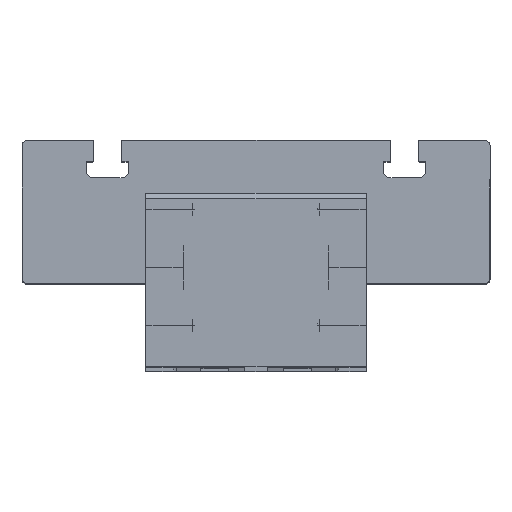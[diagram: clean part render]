
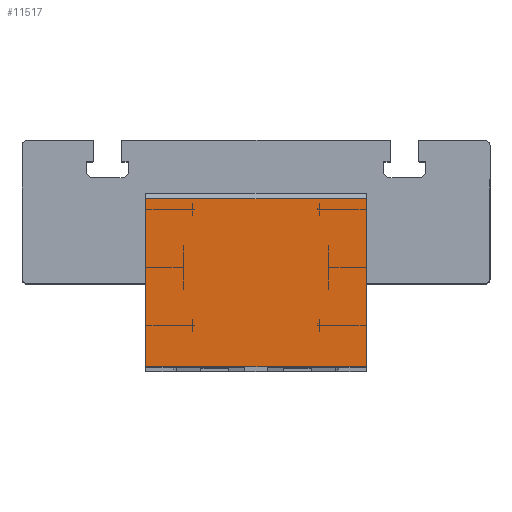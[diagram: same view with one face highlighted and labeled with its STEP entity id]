
A CAD part, top view. The second image highlights one B-rep face of the part: STEP entity #11517.
In plain terms, the highlighted planar face has unit normal (0, 0, 1) as drawn and (1, 0, 0) by its records, which use the part's own axes.
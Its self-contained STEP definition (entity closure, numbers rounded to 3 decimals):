
#132 = EDGE_CURVE ( 'NONE', #8797, #7738, #1649, .T. ) ;
#335 = VERTEX_POINT ( 'NONE', #9528 ) ;
#349 = VERTEX_POINT ( 'NONE', #5929 ) ;
#431 = DIRECTION ( 'NONE',  ( 0., 0., 1. ) ) ;
#1011 = CARTESIAN_POINT ( 'NONE',  ( 26., 25., 40. ) ) ;
#1314 = LINE ( 'NONE', #8212, #9338 ) ;
#1333 = DIRECTION ( 'NONE',  ( 0., 0., -1. ) ) ;
#1649 = LINE ( 'NONE', #1011, #10962 ) ;
#1753 = LINE ( 'NONE', #9929, #11075 ) ;
#2028 = ORIENTED_EDGE ( 'NONE', *, *, #132, .F. ) ;
#2289 = ORIENTED_EDGE ( 'NONE', *, *, #7849, .T. ) ;
#2821 = DIRECTION ( 'NONE',  ( 0., 0., -1. ) ) ;
#3068 = ORIENTED_EDGE ( 'NONE', *, *, #7485, .F. ) ;
#3592 = ORIENTED_EDGE ( 'NONE', *, *, #10193, .T. ) ;
#3718 = LINE ( 'NONE', #7644, #10636 ) ;
#4040 = CARTESIAN_POINT ( 'NONE',  ( 26., 25., 40. ) ) ;
#4478 = CARTESIAN_POINT ( 'NONE',  ( 26., 25., 40. ) ) ;
#4585 = EDGE_LOOP ( 'NONE', ( #3592, #3068, #2028, #2289 ) ) ;
#5855 = DIRECTION ( 'NONE',  ( -1., 0., 0. ) ) ;
#5929 = CARTESIAN_POINT ( 'NONE',  ( 26., -36., -40. ) ) ;
#7088 = AXIS2_PLACEMENT_3D ( 'NONE', #4040, #5855, #431 ) ;
#7330 = DIRECTION ( 'NONE',  ( 0., 1., 0. ) ) ;
#7485 = EDGE_CURVE ( 'NONE', #7738, #335, #3718, .T. ) ;
#7644 = CARTESIAN_POINT ( 'NONE',  ( 26., 25., 40. ) ) ;
#7738 = VERTEX_POINT ( 'NONE', #4478 ) ;
#7849 = EDGE_CURVE ( 'NONE', #8797, #349, #1314, .T. ) ;
#8073 = FACE_OUTER_BOUND ( 'NONE', #4585, .T. ) ;
#8212 = CARTESIAN_POINT ( 'NONE',  ( 26., -36., 40. ) ) ;
#8797 = VERTEX_POINT ( 'NONE', #10156 ) ;
#9338 = VECTOR ( 'NONE', #2821, 1000. ) ;
#9528 = CARTESIAN_POINT ( 'NONE',  ( 26., 25., -40. ) ) ;
#9929 = CARTESIAN_POINT ( 'NONE',  ( 26., 25., -40. ) ) ;
#10156 = CARTESIAN_POINT ( 'NONE',  ( 26., -36., 40. ) ) ;
#10193 = EDGE_CURVE ( 'NONE', #349, #335, #1753, .T. ) ;
#10636 = VECTOR ( 'NONE', #1333, 1000. ) ;
#10849 = DIRECTION ( 'NONE',  ( 0., 1., 0. ) ) ;
#10962 = VECTOR ( 'NONE', #7330, 1000. ) ;
#11075 = VECTOR ( 'NONE', #10849, 1000. ) ;
#11211 = PLANE ( 'NONE',  #7088 ) ;
#11517 = ADVANCED_FACE ( 'NONE', ( #8073 ), #11211, .F. ) ;
